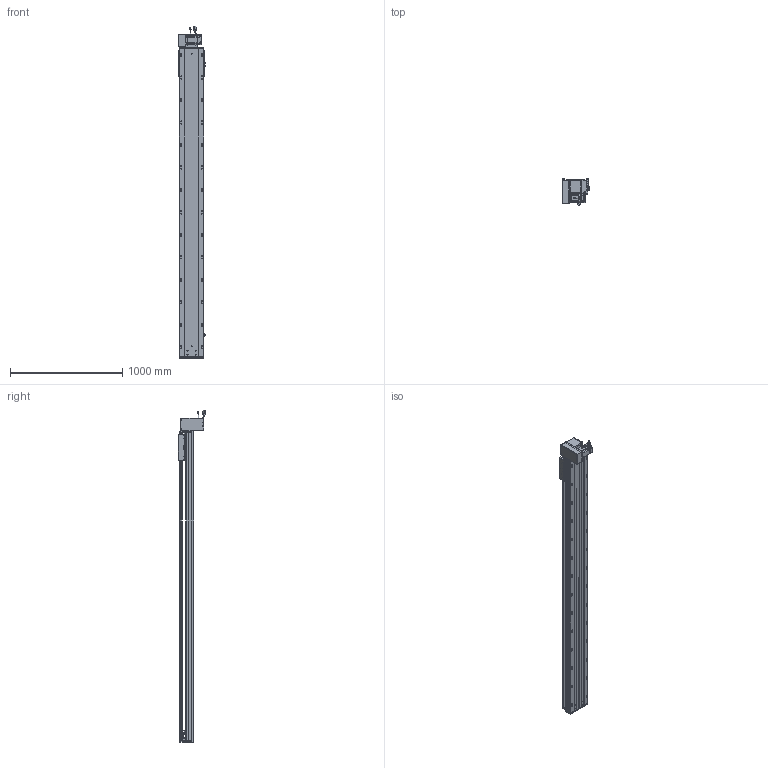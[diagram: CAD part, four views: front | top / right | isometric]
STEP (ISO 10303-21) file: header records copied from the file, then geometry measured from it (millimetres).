
FILE_DESCRIPTION (( 'STEP AP203' ), '1' );
FILE_NAME ('RY220-T-300-DL.SLDASM_2400.step', '2022-07-25T07:54:40', ( '' ), ( '' ), 'SwSTEP 2.0', 'SolidWorks 2016', '' );
FILE_SCHEMA (( 'CONFIG_CONTROL_DESIGN' ));
Length unit declared in the file: millimetre
Products named in the file (14): RY220圉猾敕々湍臏賑輸; 覜茼ん672; RY220-俋离672覜茼んえ; RY220-T-300-奻裔啣_2400; RY220-T-300-DL.SLDASM_2400; 滅袉蝶18-15; RY220-T-湍謫欶(鍼踢); RY220-T菁釱-300_2400; RY220-同步轮副支撑座6304×2; 怢湛750W_ECMA-CX0807ES; 110A-T-肮祭謫釱傷裔; RY220翋肮祭謫裔啣; RY220翋肮祭謫釱; RY220-T-蛌殏萇儂假蚾啣(750W)
Assembly tree (18 placements, depth 2):
  RY220-T-300-DL.SLDASM_2400
    RY220-T菁釱-300_2400
    RY220翋肮祭謫釱
    覜茼ん672  x3
    RY220圉猾敕々湍臏賑輸
    RY220-T-300-奻裔啣_2400
    RY220-俋离672覜茼んえ
    滅袉蝶18-15  x3
    RY220翋肮祭謫裔啣  x2
    110A-T-肮祭謫釱傷裔
    怢湛750W_ECMA-CX0807ES
    RY220-T-湍謫欶(鍼踢)
    RY220-T-蛌殏萇儂假蚾啣(750W)
    RY220-同步轮副支撑座6304×2
Bounding box: 239.7 x 240.74 x 2953.27 mm (x, y, z)
Volume: 21322359.9 mm3; surface area: 6533098 mm2
Topology: 19 solids, 19 shells, 2906 faces, 8031 edges, 5044 vertices
Faces by surface type: cylinder 1414, plane 1069, cone 341, bspline 56, sphere 16, torus 10
Entity records: 96787 total; most frequent: CARTESIAN_POINT 27357, ORIENTED_EDGE 14362, DIRECTION 13800, EDGE_CURVE 7181, AXIS2_PLACEMENT_3D 4956, VERTEX_POINT 4668, LINE 3888, VECTOR 3888
